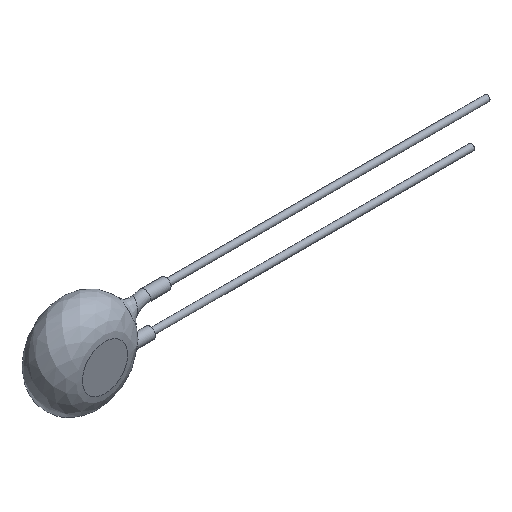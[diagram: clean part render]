
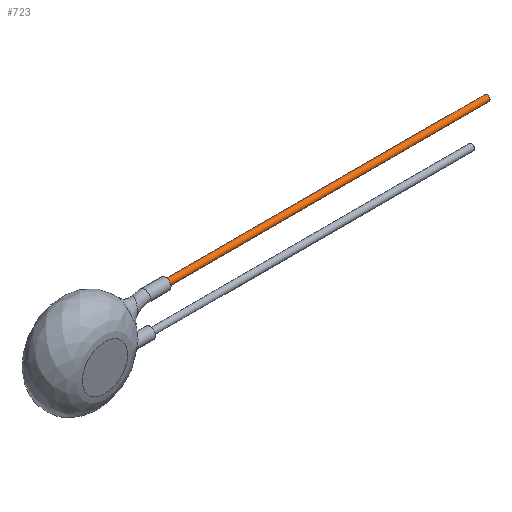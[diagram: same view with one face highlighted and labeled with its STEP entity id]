
A CAD part, isometric view. The second image highlights one B-rep face of the part: STEP entity #723.
In plain terms, the highlighted cylindrical face has radius 0.3 mm (diameter 0.6 mm), a full revolution.
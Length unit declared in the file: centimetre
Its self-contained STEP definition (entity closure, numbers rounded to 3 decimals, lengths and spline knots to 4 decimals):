
#674=CARTESIAN_POINT('',(0.775,-0.03,0.22));
#675=VERTEX_POINT('',#674);
#676=CARTESIAN_POINT('',(0.775,-0.03,0.25));
#677=DIRECTION('',(1.0,0.0,0.0));
#678=DIRECTION('',(0.0,1.0,0.0));
#679=AXIS2_PLACEMENT_3D('',#676,#677,#678);
#680=CIRCLE('',#679,0.03);
#681=EDGE_CURVE('',#675,#675,#680,.T.);
#704=CARTESIAN_POINT('',(3.975,-0.03,0.25));
#705=DIRECTION('',(-1.0,0.,0.));
#706=DIRECTION('',(0.0,1.0,0.0));
#707=AXIS2_PLACEMENT_3D('',#704,#705,#706);
#708=CYLINDRICAL_SURFACE('',#707,0.03);
#709=ORIENTED_EDGE('',*,*,#681,.T.);
#710=EDGE_LOOP('',(#709));
#711=FACE_OUTER_BOUND('',#710,.T.);
#712=CARTESIAN_POINT('',(3.975,-0.06,0.25));
#713=VERTEX_POINT('',#712);
#714=CARTESIAN_POINT('',(3.975,-0.03,0.25));
#715=DIRECTION('',(1.0,0.0,0.0));
#716=DIRECTION('',(0.0,1.0,0.0));
#717=AXIS2_PLACEMENT_3D('',#714,#715,#716);
#718=CIRCLE('',#717,0.03);
#719=EDGE_CURVE('',#713,#713,#718,.T.);
#720=ORIENTED_EDGE('',*,*,#719,.F.);
#721=EDGE_LOOP('',(#720));
#722=FACE_BOUND('',#721,.T.);
#723=ADVANCED_FACE('',(#711,#722),#708,.T.);
